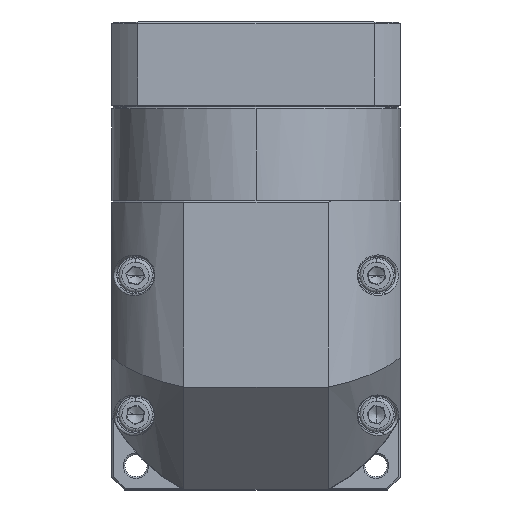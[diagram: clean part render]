
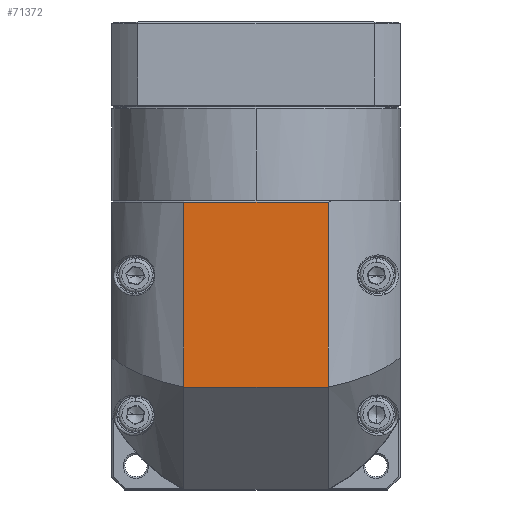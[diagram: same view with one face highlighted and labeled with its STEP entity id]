
A CAD part, top view. The second image highlights one B-rep face of the part: STEP entity #71372.
In plain terms, the highlighted planar face has unit normal (0, 0, 1).
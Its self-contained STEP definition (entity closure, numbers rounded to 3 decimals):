
#1741 = VECTOR ( 'NONE', #111412, 1000. ) ;
#4305 = VECTOR ( 'NONE', #38605, 1000. ) ;
#16036 = VERTEX_POINT ( 'NONE', #70965 ) ;
#19179 = CARTESIAN_POINT ( 'NONE',  ( -101.806, 18.643, 110.551 ) ) ;
#23246 = CARTESIAN_POINT ( 'NONE',  ( -59.38, 18.643, 110.551 ) ) ;
#30055 = DIRECTION ( 'NONE',  ( 0., -1., 0. ) ) ;
#32069 = FACE_OUTER_BOUND ( 'NONE', #109767, .T. ) ;
#33019 = VECTOR ( 'NONE', #129845, 1000. ) ;
#38605 = DIRECTION ( 'NONE',  ( -1., 0., 0. ) ) ;
#51271 = CARTESIAN_POINT ( 'NONE',  ( -59.38, -26.857, 110.551 ) ) ;
#53542 = VERTEX_POINT ( 'NONE', #19179 ) ;
#55635 = EDGE_CURVE ( 'NONE', #53542, #16036, #93232, .T. ) ;
#56029 = VERTEX_POINT ( 'NONE', #23246 ) ;
#56935 = PLANE ( 'NONE',  #118609 ) ;
#57391 = DIRECTION ( 'NONE',  ( 0., 0., 1. ) ) ;
#63958 = CARTESIAN_POINT ( 'NONE',  ( -80.593, 18.643, 110.551 ) ) ;
#67060 = LINE ( 'NONE', #94525, #4305 ) ;
#67902 = CARTESIAN_POINT ( 'NONE',  ( -80.593, 31.143, 110.551 ) ) ;
#70242 = DIRECTION ( 'NONE',  ( 0., 1., 0. ) ) ;
#70965 = CARTESIAN_POINT ( 'NONE',  ( -101.806, 73.143, 110.551 ) ) ;
#71372 = ADVANCED_FACE ( 'NONE', ( #32069 ), #56935, .T. ) ;
#83755 = LINE ( 'NONE', #51271, #109056 ) ;
#83934 = ORIENTED_EDGE ( 'NONE', *, *, #111806, .F. ) ;
#84563 = VERTEX_POINT ( 'NONE', #98102 ) ;
#87572 = EDGE_CURVE ( 'NONE', #84563, #16036, #67060, .T. ) ;
#90666 = LINE ( 'NONE', #63958, #33019 ) ;
#91077 = CARTESIAN_POINT ( 'NONE',  ( -101.806, -26.857, 110.551 ) ) ;
#93232 = LINE ( 'NONE', #91077, #1741 ) ;
#94525 = CARTESIAN_POINT ( 'NONE',  ( -80.593, 73.143, 110.551 ) ) ;
#96584 = ORIENTED_EDGE ( 'NONE', *, *, #55635, .F. ) ;
#97914 = ORIENTED_EDGE ( 'NONE', *, *, #106832, .F. ) ;
#98102 = CARTESIAN_POINT ( 'NONE',  ( -59.38, 73.143, 110.551 ) ) ;
#106832 = EDGE_CURVE ( 'NONE', #84563, #56029, #83755, .T. ) ;
#109056 = VECTOR ( 'NONE', #30055, 1000. ) ;
#109767 = EDGE_LOOP ( 'NONE', ( #96584, #83934, #97914, #130717 ) ) ;
#111412 = DIRECTION ( 'NONE',  ( 0., 1., 0. ) ) ;
#111806 = EDGE_CURVE ( 'NONE', #56029, #53542, #90666, .T. ) ;
#118609 = AXIS2_PLACEMENT_3D ( 'NONE', #67902, #57391, #70242 ) ;
#129845 = DIRECTION ( 'NONE',  ( -1., 0., 0. ) ) ;
#130717 = ORIENTED_EDGE ( 'NONE', *, *, #87572, .T. ) ;
